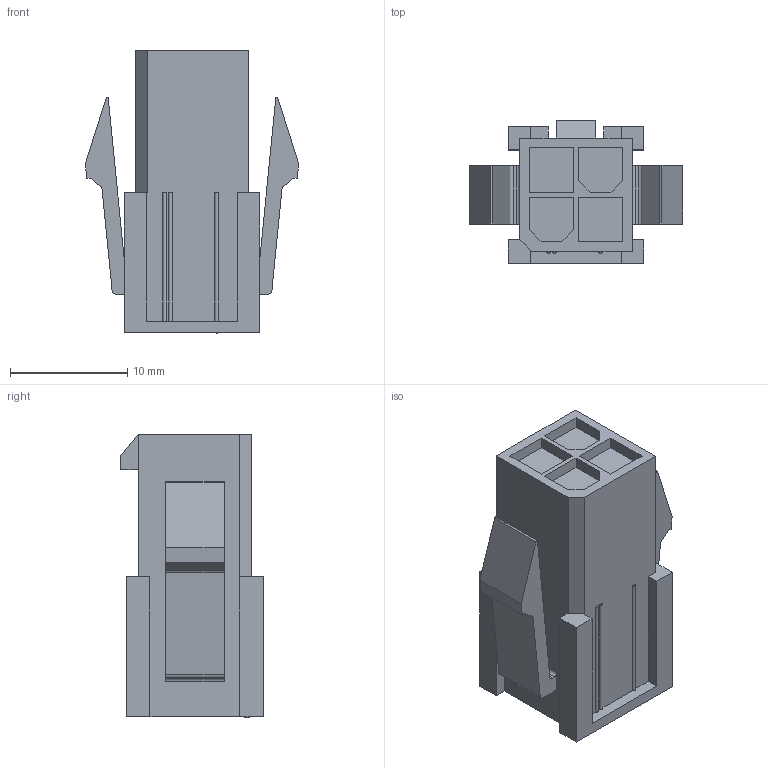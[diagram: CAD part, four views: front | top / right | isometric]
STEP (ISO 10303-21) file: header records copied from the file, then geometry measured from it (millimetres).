
FILE_DESCRIPTION((''),'2;1');
FILE_NAME('C-1586018-4','2008-04-24T',('workeradm'),('Tyco Electronics Corporation'),'PRO/ENGINEER BY PARAMETRIC TECHNOLOGY CORPORATION, 2005450','PRO/ENGINEER BY PARAMETRIC TECHNOLOGY CORPORATION, 2005450','');
FILE_SCHEMA(('CONFIG_CONTROL_DESIGN', 'GEOMETRIC_VALIDATION_PROPERTIES_MIM'));
Length unit declared in the file: millimetre
Products named in the file (1): C-1586018-4
Bounding box: 18.22 x 12.18 x 24.15 mm (x, y, z)
Volume: 2540.6 mm3; surface area: 1920.6 mm2
Topology: 1 solids, 1 shells, 166 faces, 441 edges, 293 vertices
Faces by surface type: plane 148, cylinder 16, extrusion 2
Entity records: 5230 total; most frequent: CARTESIAN_POINT 937, ORIENTED_EDGE 882, DIRECTION 799, EDGE_CURVE 441, VECTOR 407, LINE 405, VERTEX_POINT 293, AXIS2_PLACEMENT_3D 196
